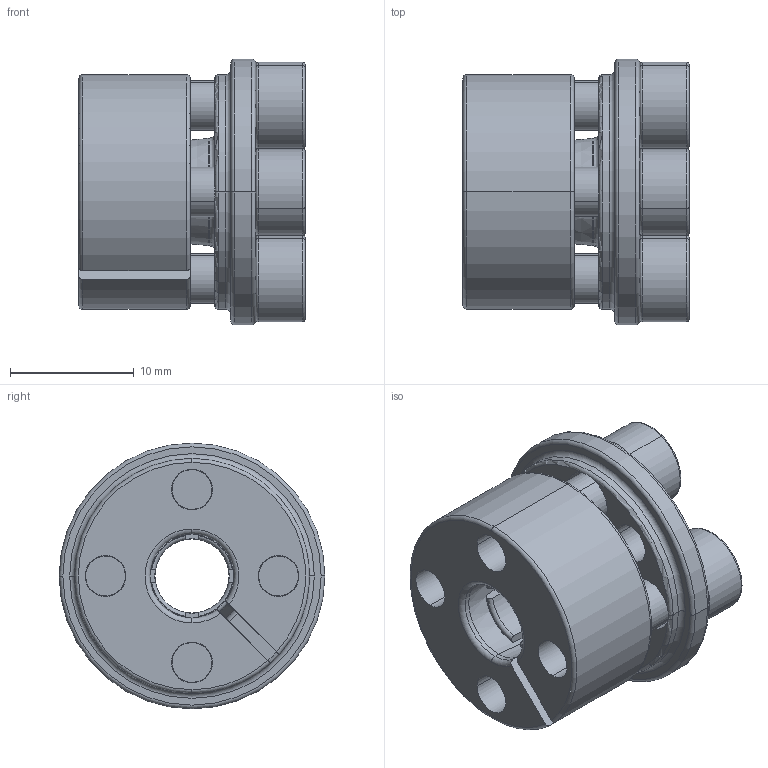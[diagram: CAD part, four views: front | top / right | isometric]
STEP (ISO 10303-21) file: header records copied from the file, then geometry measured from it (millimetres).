
FILE_DESCRIPTION (( 'STEP AP203' ), '1' );
FILE_NAME ('SAPA-06-19-45C.STEP', '2013-01-22T04:40:21', ( '' ), ( '' ), 'SwSTEP 2.0', 'SolidWorks 2012', '' );
FILE_SCHEMA (( 'CONFIG_CONTROL_DESIGN' ));
Length unit declared in the file: millimetre
Products named in the file (1): SAPA-06-19-45C
Bounding box: 18.3 x 21.5 x 21.5 mm (x, y, z)
Volume: 3694.1 mm3; surface area: 3262.3 mm2
Topology: 1 solids, 1 shells, 221 faces, 559 edges, 336 vertices
Faces by surface type: plane 86, cylinder 58, torus 56, cone 21
Entity records: 6833 total; most frequent: CARTESIAN_POINT 1329, DIRECTION 1230, ORIENTED_EDGE 1102, EDGE_CURVE 551, AXIS2_PLACEMENT_3D 513, VERTEX_POINT 336, CIRCLE 291, EDGE_LOOP 247
